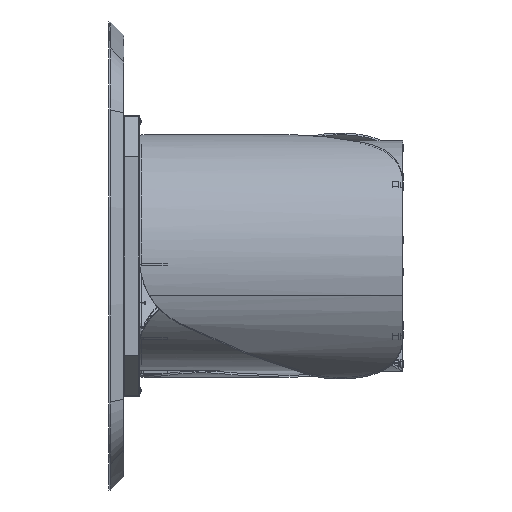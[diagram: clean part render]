
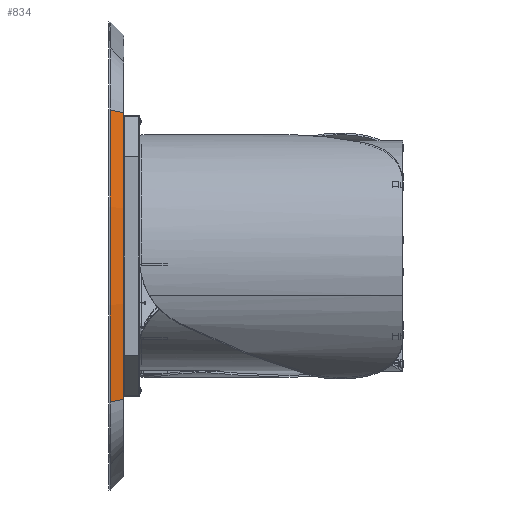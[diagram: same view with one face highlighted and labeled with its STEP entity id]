
A CAD part, left-side view. The second image highlights one B-rep face of the part: STEP entity #834.
In plain terms, the highlighted conical face has half-angle 45 degrees and reference radius 1900 mm.
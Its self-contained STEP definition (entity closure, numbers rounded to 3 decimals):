
#298 = LINE ( 'NONE', #12837, #23186 ) ;
#834 = ADVANCED_FACE ( 'NONE', ( #4135 ), #10056, .T. ) ;
#2258 = CARTESIAN_POINT ( 'NONE',  ( -1428.519, 0., -367.072 ) ) ;
#4006 = CARTESIAN_POINT ( 'NONE',  ( 400., 35., 0. ) ) ;
#4135 = FACE_OUTER_BOUND ( 'NONE', #21341, .T. ) ;
#4710 = VERTEX_POINT ( 'NONE', #13417 ) ;
#5964 = LINE ( 'NONE', #2258, #20169 ) ;
#6214 = DIRECTION ( 'NONE',  ( -0.693, 0.707, -0.139 ) ) ;
#6844 = CARTESIAN_POINT ( 'NONE',  ( -1428.807, 0.293, 367.13 ) ) ;
#6925 = VERTEX_POINT ( 'NONE', #21044 ) ;
#7464 = CARTESIAN_POINT ( 'NONE',  ( 400., 35., 0. ) ) ;
#7621 = AXIS2_PLACEMENT_3D ( 'NONE', #7464, #7716, #23104 ) ;
#7658 = VERTEX_POINT ( 'NONE', #6844 ) ;
#7716 = DIRECTION ( 'NONE',  ( 0., 1., 0. ) ) ;
#8721 = AXIS2_PLACEMENT_3D ( 'NONE', #11428, #22960, #23206 ) ;
#10056 = CONICAL_SURFACE ( 'NONE', #23960, 1900., 0.785 ) ;
#10155 = EDGE_CURVE ( 'NONE', #6925, #7658, #25087, .T. ) ;
#10783 = DIRECTION ( 'NONE',  ( -0.693, 0.707, 0.139 ) ) ;
#11428 = CARTESIAN_POINT ( 'NONE',  ( 400., 0.293, 0. ) ) ;
#11945 = DIRECTION ( 'NONE',  ( 0., 0., 1. ) ) ;
#12715 = CARTESIAN_POINT ( 'NONE',  ( -1462.835, 35., 373.961 ) ) ;
#12837 = CARTESIAN_POINT ( 'NONE',  ( -1428.519, 0., 367.072 ) ) ;
#13417 = CARTESIAN_POINT ( 'NONE',  ( -1462.835, 35., -373.961 ) ) ;
#14028 = EDGE_CURVE ( 'NONE', #4710, #15800, #24788, .T. ) ;
#14293 = EDGE_CURVE ( 'NONE', #7658, #15800, #298, .T. ) ;
#15324 = ORIENTED_EDGE ( 'NONE', *, *, #14028, .F. ) ;
#15800 = VERTEX_POINT ( 'NONE', #12715 ) ;
#16904 = ORIENTED_EDGE ( 'NONE', *, *, #14293, .T. ) ;
#18045 = ORIENTED_EDGE ( 'NONE', *, *, #10155, .T. ) ;
#20169 = VECTOR ( 'NONE', #6214, 1000. ) ;
#21044 = CARTESIAN_POINT ( 'NONE',  ( -1428.807, 0.293, -367.13 ) ) ;
#21341 = EDGE_LOOP ( 'NONE', ( #23071, #18045, #16904, #15324 ) ) ;
#22960 = DIRECTION ( 'NONE',  ( 0., 1., 0. ) ) ;
#23071 = ORIENTED_EDGE ( 'NONE', *, *, #24733, .F. ) ;
#23104 = DIRECTION ( 'NONE',  ( 0., 0., 1. ) ) ;
#23186 = VECTOR ( 'NONE', #10783, 1000. ) ;
#23206 = DIRECTION ( 'NONE',  ( 0., 0., 1. ) ) ;
#23960 = AXIS2_PLACEMENT_3D ( 'NONE', #4006, #25118, #11945 ) ;
#24733 = EDGE_CURVE ( 'NONE', #6925, #4710, #5964, .T. ) ;
#24788 = CIRCLE ( 'NONE', #7621, 1900. ) ;
#25087 = CIRCLE ( 'NONE', #8721, 1865.293 ) ;
#25118 = DIRECTION ( 'NONE',  ( 0., 1., 0. ) ) ;
